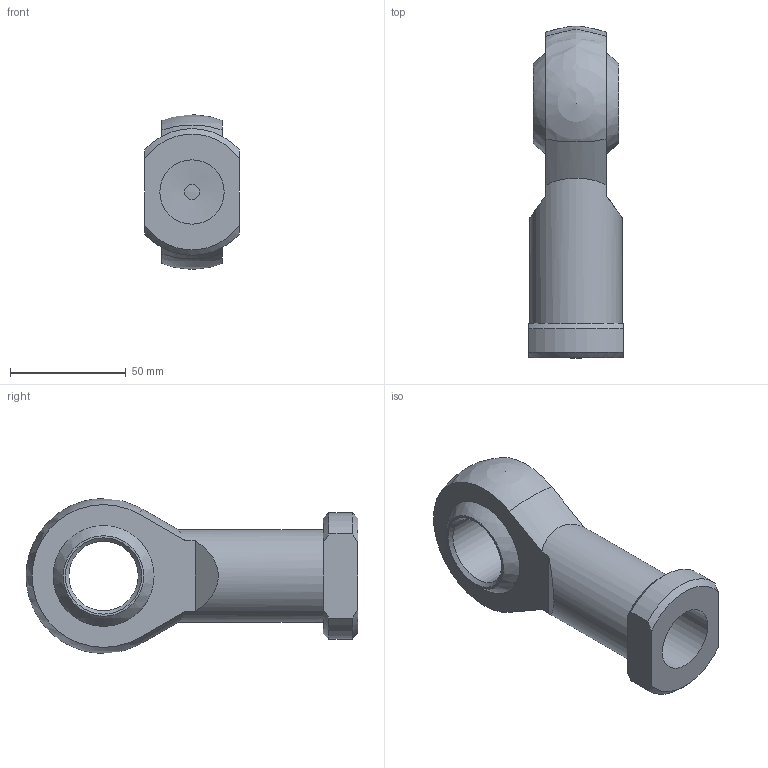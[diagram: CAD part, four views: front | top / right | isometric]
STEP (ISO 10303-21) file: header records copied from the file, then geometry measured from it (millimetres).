
FILE_DESCRIPTION(/* description */ ('Unknown'),/* implementation_level */ '2;1');
FILE_NAME(/* name */ 'WA125_WA150_J',/* time_stamp */ '2026-07-17T17:02:21+08:00',/* author */ ('Unknown'),/* organization */ ('Unknown'),/* preprocessor_version */ 'ST-DEVELOPER v16.7',/* originating_system */ 'DEX',/* authorisation */ $);
FILE_SCHEMA (('CONFIG_CONTROL_DESIGN'));
Length unit declared in the file: millimetre
Products named in the file (1): WA125_WA150_J
Bounding box: 41 x 143.5 x 67 mm (x, y, z)
Volume: 146867.3 mm3; surface area: 31832.7 mm2
Topology: 1 solids, 1 shells, 29 faces, 66 edges, 44 vertices
Faces by surface type: plane 10, cylinder 8, cone 7, sphere 4
Full cylindrical faces by diameter (mm): 6.5 x1, 27.835 x1, 30 x1, 40 x1
Entity records: 802 total; most frequent: CARTESIAN_POINT 162, DIRECTION 132, ORIENTED_EDGE 110, AXIS2_PLACEMENT_3D 57, EDGE_CURVE 55, EDGE_LOOP 44, FACE_BOUND 44, VERTEX_POINT 41
